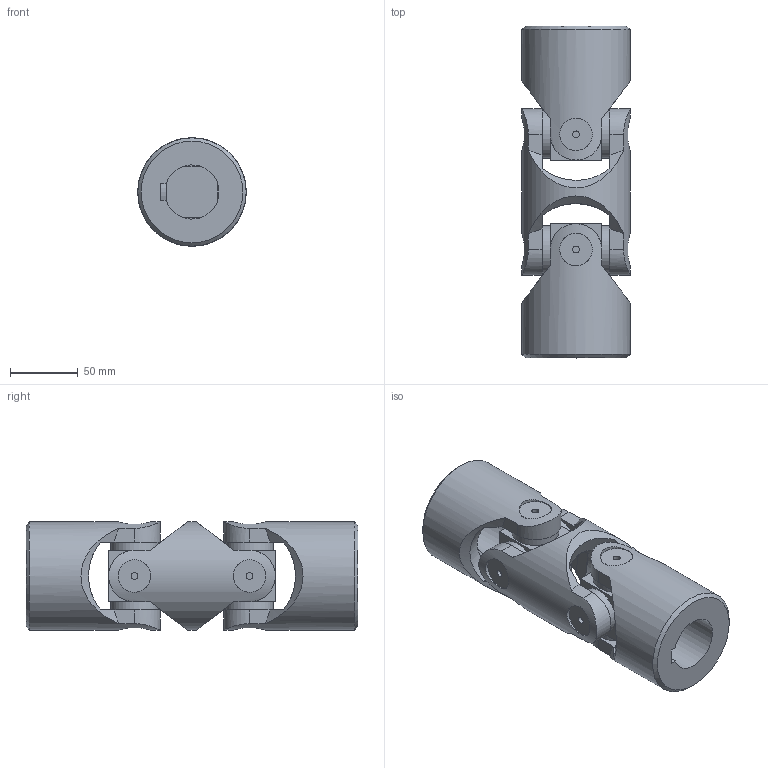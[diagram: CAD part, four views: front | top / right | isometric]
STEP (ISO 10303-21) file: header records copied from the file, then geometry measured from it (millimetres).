
FILE_DESCRIPTION(/* description */ (''),/* implementation_level */ '2;1');
FILE_NAME(/* name */ '\\SRV2016\Societa\Stefano\Disegni 3D\00Catalogo 3D\02Doppi GD-GBD\SG0D401C.stp',/* time_stamp */ '2021-11-23T16:02:43+01:00',/* author */ ('acquisti'),/* organization */ (''),/* preprocessor_version */ 'ST-DEVELOPER v15.6',/* originating_system */ 'Autodesk Inventor 2015',/* authorisation */ '');
FILE_SCHEMA (('AUTOMOTIVE_DESIGN { 1 0 10303 214 3 1 1 }'));
Length unit declared in the file: millimetre
Products named in the file (5): 8G MOD; 8G SFE; 8G MOC; 8G MOS; Ø80_8GD-00_SG0D4000
Assembly tree (5 placements, depth 2):
  Ø80_8GD-00_SG0D4000
    8G MOD
    8G SFE  x2
    8G MOC
    8G MOS
Bounding box: 80 x 245 x 80 mm (x, y, z)
Volume: 771443.8 mm3; surface area: 126083.4 mm2
Topology: 5 solids, 5 shells, 142 faces, 344 edges, 232 vertices
Faces by surface type: plane 73, cylinder 42, cone 23, torus 4
Full cylindrical faces by diameter (mm): 5 x8, 24 x8, 35 x8, 40 x1, 47 x3, 80 x3
Entity records: 4698 total; most frequent: CARTESIAN_POINT 1824, ORIENTED_EDGE 564, DIRECTION 539, EDGE_CURVE 282, AXIS2_PLACEMENT_3D 234, VERTEX_POINT 214, EDGE_LOOP 186, FACE_OUTER_BOUND 128
